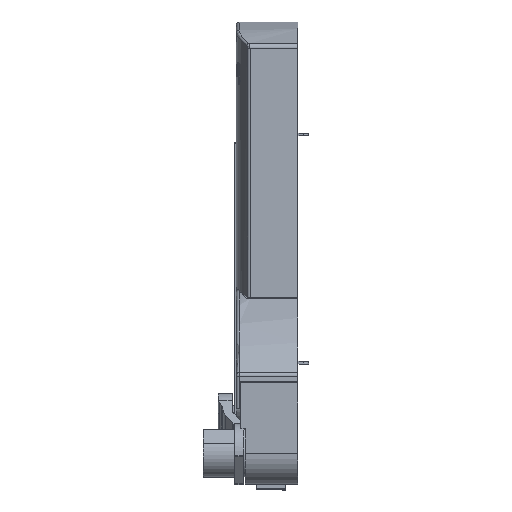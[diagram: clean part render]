
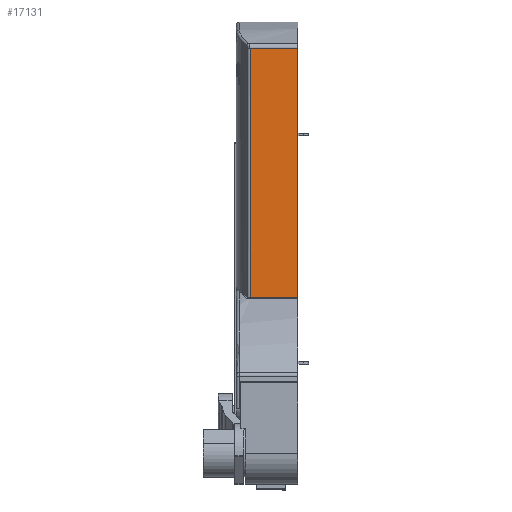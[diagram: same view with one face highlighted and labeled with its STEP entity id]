
A CAD part, top view. The second image highlights one B-rep face of the part: STEP entity #17131.
In plain terms, the highlighted planar face has unit normal (0, 0, 1).
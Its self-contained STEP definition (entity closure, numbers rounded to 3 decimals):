
#173 = EDGE_LOOP ( 'NONE', ( #17684, #17685, #17686, #13710 ) ) ;
#4731 = VERTEX_POINT ( 'NONE', #6195 ) ;
#4749 = VERTEX_POINT ( 'NONE', #6213 ) ;
#6195 = CARTESIAN_POINT ( 'NONE',  ( 0., 208.25, 24.257 ) ) ;
#6213 = CARTESIAN_POINT ( 'NONE',  ( 0., 68.229, 24.257 ) ) ;
#6527 = CARTESIAN_POINT ( 'NONE',  ( -26.858, 208.25, 24.257 ) ) ;
#6530 = CARTESIAN_POINT ( 'NONE',  ( -26.858, 68.229, 24.257 ) ) ;
#8615 = VERTEX_POINT ( 'NONE', #6527 ) ;
#8618 = VERTEX_POINT ( 'NONE', #6530 ) ;
#9055 = CARTESIAN_POINT ( 'NONE',  ( -53., 101.957, 24.257 ) ) ;
#9062 = FACE_OUTER_BOUND ( 'NONE', #173, .T. ) ;
#9063 = PLANE ( 'NONE',  #10610 ) ;
#9066 = DIRECTION ( 'NONE',  ( 0., 0., -1. ) ) ;
#9067 = DIRECTION ( 'NONE',  ( 1., 0., 0. ) ) ;
#9462 = LINE ( 'NONE', #9486, #10679 ) ;
#9474 = LINE ( 'NONE', #9476, #10823 ) ;
#9476 = CARTESIAN_POINT ( 'NONE',  ( -53., 208.25, 24.257 ) ) ;
#9478 = DIRECTION ( 'NONE',  ( 1., 0., 0. ) ) ;
#9480 = LINE ( 'NONE', #9482, #10825 ) ;
#9482 = CARTESIAN_POINT ( 'NONE',  ( -26.858, 101.957, 24.257 ) ) ;
#9484 = DIRECTION ( 'NONE',  ( 0., 1., 0. ) ) ;
#9486 = CARTESIAN_POINT ( 'NONE',  ( -26.858, 68.229, 24.257 ) ) ;
#9488 = DIRECTION ( 'NONE',  ( -1., 0., 0. ) ) ;
#10610 = AXIS2_PLACEMENT_3D ( 'NONE', #9055, #9066, #9067 ) ;
#10679 = VECTOR ( 'NONE', #9488, 1000. ) ;
#10823 = VECTOR ( 'NONE', #9478, 1000. ) ;
#10825 = VECTOR ( 'NONE', #9484, 1000. ) ;
#11199 = CARTESIAN_POINT ( 'NONE',  ( 0., 101.957, 24.257 ) ) ;
#11203 = LINE ( 'NONE', #11199, #18521 ) ;
#11207 = DIRECTION ( 'NONE',  ( 0., -1., 0. ) ) ;
#13710 = ORIENTED_EDGE ( 'NONE', *, *, #17396, .F. ) ;
#17057 = EDGE_CURVE ( 'NONE', #4731, #4749, #11203, .T. ) ;
#17131 = ADVANCED_FACE ( 'NONE', ( #9062 ), #9063, .F. ) ;
#17394 = EDGE_CURVE ( 'NONE', #8615, #4731, #9474, .T. ) ;
#17395 = EDGE_CURVE ( 'NONE', #8618, #8615, #9480, .T. ) ;
#17396 = EDGE_CURVE ( 'NONE', #4749, #8618, #9462, .T. ) ;
#17684 = ORIENTED_EDGE ( 'NONE', *, *, #17057, .F. ) ;
#17685 = ORIENTED_EDGE ( 'NONE', *, *, #17394, .F. ) ;
#17686 = ORIENTED_EDGE ( 'NONE', *, *, #17395, .F. ) ;
#18521 = VECTOR ( 'NONE', #11207, 1000. ) ;
